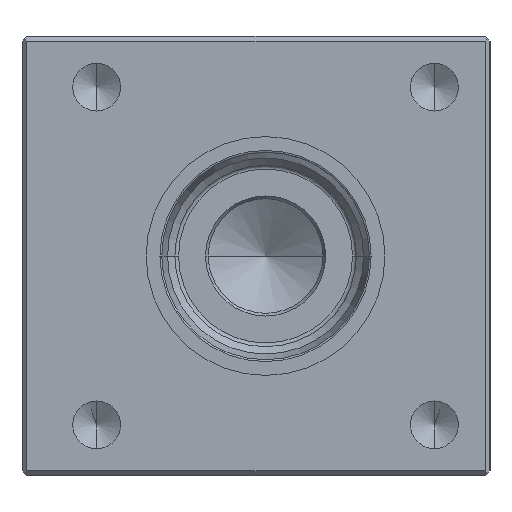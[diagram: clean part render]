
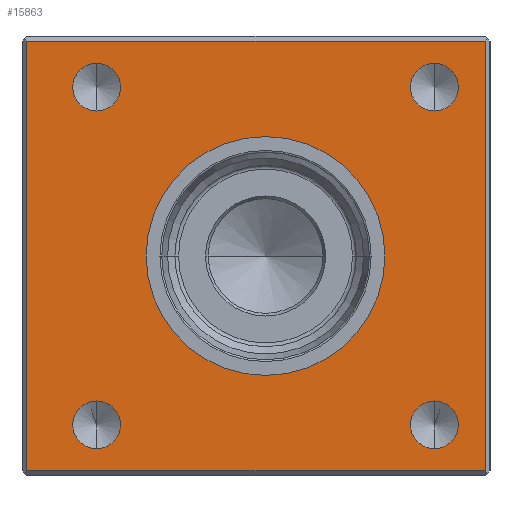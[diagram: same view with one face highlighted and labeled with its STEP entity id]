
A CAD part, left-side view. The second image highlights one B-rep face of the part: STEP entity #15863.
In plain terms, the highlighted planar face has unit normal (-1, 0, 0).
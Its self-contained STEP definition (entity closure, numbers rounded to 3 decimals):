
#11932 = VERTEX_POINT ( 'NONE', #25720 ) ;
#11933 = VERTEX_POINT ( 'NONE', #25721 ) ;
#11937 = VERTEX_POINT ( 'NONE', #25725 ) ;
#11938 = VERTEX_POINT ( 'NONE', #25726 ) ;
#11942 = VERTEX_POINT ( 'NONE', #25730 ) ;
#11943 = VERTEX_POINT ( 'NONE', #25731 ) ;
#11947 = VERTEX_POINT ( 'NONE', #25735 ) ;
#11948 = VERTEX_POINT ( 'NONE', #25736 ) ;
#11998 = VERTEX_POINT ( 'NONE', #25786 ) ;
#11999 = VERTEX_POINT ( 'NONE', #25787 ) ;
#12115 = VERTEX_POINT ( 'NONE', #25903 ) ;
#12116 = VERTEX_POINT ( 'NONE', #25904 ) ;
#12117 = VERTEX_POINT ( 'NONE', #25905 ) ;
#12118 = VERTEX_POINT ( 'NONE', #25906 ) ;
#14114 = EDGE_CURVE ( 'NONE', #11932, #11933, #24244, .T. ) ;
#14120 = EDGE_CURVE ( 'NONE', #11937, #11938, #24246, .T. ) ;
#14126 = EDGE_CURVE ( 'NONE', #11942, #11943, #24248, .T. ) ;
#14132 = EDGE_CURVE ( 'NONE', #11947, #11948, #24250, .T. ) ;
#14194 = EDGE_CURVE ( 'NONE', #11998, #11999, #24278, .T. ) ;
#14535 = ORIENTED_EDGE ( 'NONE', *, *, #15592, .F. ) ;
#14536 = ORIENTED_EDGE ( 'NONE', *, *, #15593, .F. ) ;
#14537 = ORIENTED_EDGE ( 'NONE', *, *, #15594, .F. ) ;
#14538 = ORIENTED_EDGE ( 'NONE', *, *, #14114, .F. ) ;
#14539 = ORIENTED_EDGE ( 'NONE', *, *, #15595, .F. ) ;
#14540 = ORIENTED_EDGE ( 'NONE', *, *, #14120, .F. ) ;
#14541 = ORIENTED_EDGE ( 'NONE', *, *, #15597, .T. ) ;
#14542 = ORIENTED_EDGE ( 'NONE', *, *, #14126, .F. ) ;
#14543 = ORIENTED_EDGE ( 'NONE', *, *, #14132, .F. ) ;
#14544 = ORIENTED_EDGE ( 'NONE', *, *, #15598, .T. ) ;
#14545 = ORIENTED_EDGE ( 'NONE', *, *, #15596, .T. ) ;
#14546 = ORIENTED_EDGE ( 'NONE', *, *, #15599, .T. ) ;
#14548 = ORIENTED_EDGE ( 'NONE', *, *, #15600, .F. ) ;
#14550 = ORIENTED_EDGE ( 'NONE', *, *, #14194, .F. ) ;
#15592 = EDGE_CURVE ( 'NONE', #11933, #11932, #24365, .T. ) ;
#15593 = EDGE_CURVE ( 'NONE', #11938, #11937, #24366, .T. ) ;
#15594 = EDGE_CURVE ( 'NONE', #11943, #11942, #24367, .T. ) ;
#15595 = EDGE_CURVE ( 'NONE', #11948, #11947, #24368, .T. ) ;
#15596 = EDGE_CURVE ( 'NONE', #12116, #12117, #31950, .T. ) ;
#15597 = EDGE_CURVE ( 'NONE', #12115, #12116, #31953, .T. ) ;
#15598 = EDGE_CURVE ( 'NONE', #12117, #12118, #31956, .T. ) ;
#15599 = EDGE_CURVE ( 'NONE', #12118, #12115, #31959, .T. ) ;
#15600 = EDGE_CURVE ( 'NONE', #11999, #11998, #24369, .T. ) ;
#15863 = ADVANCED_FACE ( 'NONE', ( #31488, #31491, #31493, #31495, #31497, #31498 ), #33036, .T. ) ;
#18990 = EDGE_LOOP ( 'NONE', ( #14535, #14538 ) ) ;
#18991 = EDGE_LOOP ( 'NONE', ( #14536, #14540 ) ) ;
#18992 = EDGE_LOOP ( 'NONE', ( #14537, #14542 ) ) ;
#18993 = EDGE_LOOP ( 'NONE', ( #14539, #14543 ) ) ;
#18994 = EDGE_LOOP ( 'NONE', ( #14541, #14545, #14544, #14546 ) ) ;
#18995 = EDGE_LOOP ( 'NONE', ( #14548, #14550 ) ) ;
#24244 = CIRCLE ( 'NONE', #29569, 2.5 ) ;
#24246 = CIRCLE ( 'NONE', #29575, 2.5 ) ;
#24248 = CIRCLE ( 'NONE', #29581, 2.5 ) ;
#24250 = CIRCLE ( 'NONE', #29587, 2.5 ) ;
#24278 = CIRCLE ( 'NONE', #29651, 12.5 ) ;
#24365 = CIRCLE ( 'NONE', #31203, 2.5 ) ;
#24366 = CIRCLE ( 'NONE', #31175, 2.5 ) ;
#24367 = CIRCLE ( 'NONE', #31200, 2.5 ) ;
#24368 = CIRCLE ( 'NONE', #31202, 2.5 ) ;
#24369 = CIRCLE ( 'NONE', #31207, 12.5 ) ;
#25720 = CARTESIAN_POINT ( 'NONE',  ( 0., 17.18, 15.18 ) ) ;
#25721 = CARTESIAN_POINT ( 'NONE',  ( 0., 17.18, 20.18 ) ) ;
#25725 = CARTESIAN_POINT ( 'NONE',  ( 0., -18.18, -20.18 ) ) ;
#25726 = CARTESIAN_POINT ( 'NONE',  ( 0., -18.18, -15.18 ) ) ;
#25730 = CARTESIAN_POINT ( 'NONE',  ( 0., 17.18, -20.18 ) ) ;
#25731 = CARTESIAN_POINT ( 'NONE',  ( 0., 17.18, -15.18 ) ) ;
#25735 = CARTESIAN_POINT ( 'NONE',  ( 0., -18.18, 15.18 ) ) ;
#25736 = CARTESIAN_POINT ( 'NONE',  ( 0., -18.18, 20.18 ) ) ;
#25786 = CARTESIAN_POINT ( 'NONE',  ( 0., 12., 0. ) ) ;
#25787 = CARTESIAN_POINT ( 'NONE',  ( 0., -13., 0. ) ) ;
#25903 = CARTESIAN_POINT ( 'NONE',  ( 0., 24.5, -22.5 ) ) ;
#25904 = CARTESIAN_POINT ( 'NONE',  ( 0., -23.5, -22.5 ) ) ;
#25905 = CARTESIAN_POINT ( 'NONE',  ( 0., -23.5, 22.5 ) ) ;
#25906 = CARTESIAN_POINT ( 'NONE',  ( 0., 24.5, 22.5 ) ) ;
#29569 = AXIS2_PLACEMENT_3D ( 'NONE', #30142, #30143, #30144 ) ;
#29575 = AXIS2_PLACEMENT_3D ( 'NONE', #30160, #30161, #30162 ) ;
#29581 = AXIS2_PLACEMENT_3D ( 'NONE', #30178, #30179, #30180 ) ;
#29587 = AXIS2_PLACEMENT_3D ( 'NONE', #30196, #30197, #30198 ) ;
#29651 = AXIS2_PLACEMENT_3D ( 'NONE', #30382, #30383, #30384 ) ;
#30142 = CARTESIAN_POINT ( 'NONE',  ( 0., 17.18, 17.68 ) ) ;
#30143 = DIRECTION ( 'NONE',  ( -1., 0., 0. ) ) ;
#30144 = DIRECTION ( 'NONE',  ( 0., 0., 1. ) ) ;
#30160 = CARTESIAN_POINT ( 'NONE',  ( 0., -18.18, -17.68 ) ) ;
#30161 = DIRECTION ( 'NONE',  ( -1., 0., 0. ) ) ;
#30162 = DIRECTION ( 'NONE',  ( 0., 0., 1. ) ) ;
#30178 = CARTESIAN_POINT ( 'NONE',  ( 0., 17.18, -17.68 ) ) ;
#30179 = DIRECTION ( 'NONE',  ( -1., 0., 0. ) ) ;
#30180 = DIRECTION ( 'NONE',  ( 0., 0., 1. ) ) ;
#30196 = CARTESIAN_POINT ( 'NONE',  ( 0., -18.18, 17.68 ) ) ;
#30197 = DIRECTION ( 'NONE',  ( -1., 0., 0. ) ) ;
#30198 = DIRECTION ( 'NONE',  ( 0., 0., 1. ) ) ;
#30382 = CARTESIAN_POINT ( 'NONE',  ( 0., -0.5, 0. ) ) ;
#30383 = DIRECTION ( 'NONE',  ( -1., 0., 0. ) ) ;
#30384 = DIRECTION ( 'NONE',  ( 0., -1., 0. ) ) ;
#31175 = AXIS2_PLACEMENT_3D ( 'NONE', #31940, #31941, #31942 ) ;
#31200 = AXIS2_PLACEMENT_3D ( 'NONE', #31943, #31944, #31945 ) ;
#31202 = AXIS2_PLACEMENT_3D ( 'NONE', #31946, #31947, #31948 ) ;
#31203 = AXIS2_PLACEMENT_3D ( 'NONE', #31934, #31938, #31939 ) ;
#31207 = AXIS2_PLACEMENT_3D ( 'NONE', #31949, #31962, #31963 ) ;
#31208 = VECTOR ( 'NONE', #31952, 1000. ) ;
#31209 = VECTOR ( 'NONE', #31955, 1000. ) ;
#31210 = VECTOR ( 'NONE', #31958, 1000. ) ;
#31212 = VECTOR ( 'NONE', #31961, 1000. ) ;
#31488 = FACE_BOUND ( 'NONE', #18990, .T. ) ;
#31491 = FACE_BOUND ( 'NONE', #18991, .T. ) ;
#31492 = AXIS2_PLACEMENT_3D ( 'NONE', #33037, #33038, #33039 ) ;
#31493 = FACE_BOUND ( 'NONE', #18992, .T. ) ;
#31495 = FACE_BOUND ( 'NONE', #18993, .T. ) ;
#31497 = FACE_OUTER_BOUND ( 'NONE', #18994, .T. ) ;
#31498 = FACE_BOUND ( 'NONE', #18995, .T. ) ;
#31934 = CARTESIAN_POINT ( 'NONE',  ( 0., 17.18, 17.68 ) ) ;
#31938 = DIRECTION ( 'NONE',  ( -1., 0., 0. ) ) ;
#31939 = DIRECTION ( 'NONE',  ( 0., 0., 1. ) ) ;
#31940 = CARTESIAN_POINT ( 'NONE',  ( 0., -18.18, -17.68 ) ) ;
#31941 = DIRECTION ( 'NONE',  ( -1., 0., 0. ) ) ;
#31942 = DIRECTION ( 'NONE',  ( 0., 0., 1. ) ) ;
#31943 = CARTESIAN_POINT ( 'NONE',  ( 0., 17.18, -17.68 ) ) ;
#31944 = DIRECTION ( 'NONE',  ( -1., 0., 0. ) ) ;
#31945 = DIRECTION ( 'NONE',  ( 0., 0., 1. ) ) ;
#31946 = CARTESIAN_POINT ( 'NONE',  ( 0., -18.18, 17.68 ) ) ;
#31947 = DIRECTION ( 'NONE',  ( -1., 0., 0. ) ) ;
#31948 = DIRECTION ( 'NONE',  ( 0., 0., 1. ) ) ;
#31949 = CARTESIAN_POINT ( 'NONE',  ( 0., -0.5, 0. ) ) ;
#31950 = LINE ( 'NONE', #31951, #31208 ) ;
#31951 = CARTESIAN_POINT ( 'NONE',  ( 0., -23.5, -23. ) ) ;
#31952 = DIRECTION ( 'NONE',  ( 0., 0., 1. ) ) ;
#31953 = LINE ( 'NONE', #31954, #31209 ) ;
#31954 = CARTESIAN_POINT ( 'NONE',  ( 0., 25., -22.5 ) ) ;
#31955 = DIRECTION ( 'NONE',  ( 0., -1., 0. ) ) ;
#31956 = LINE ( 'NONE', #31957, #31210 ) ;
#31957 = CARTESIAN_POINT ( 'NONE',  ( 0., 25., 22.5 ) ) ;
#31958 = DIRECTION ( 'NONE',  ( 0., 1., 0. ) ) ;
#31959 = LINE ( 'NONE', #31960, #31212 ) ;
#31960 = CARTESIAN_POINT ( 'NONE',  ( 0., 24.5, -23. ) ) ;
#31961 = DIRECTION ( 'NONE',  ( 0., 0., -1. ) ) ;
#31962 = DIRECTION ( 'NONE',  ( -1., 0., 0. ) ) ;
#31963 = DIRECTION ( 'NONE',  ( 0., -1., 0. ) ) ;
#33036 = PLANE ( 'NONE',  #31492 ) ;
#33037 = CARTESIAN_POINT ( 'NONE',  ( 0., 25., -23. ) ) ;
#33038 = DIRECTION ( 'NONE',  ( -1., 0., 0. ) ) ;
#33039 = DIRECTION ( 'NONE',  ( 0., -1., 0. ) ) ;
